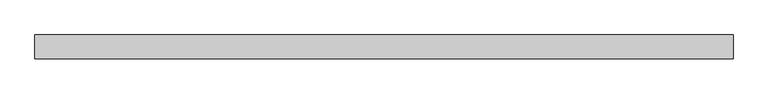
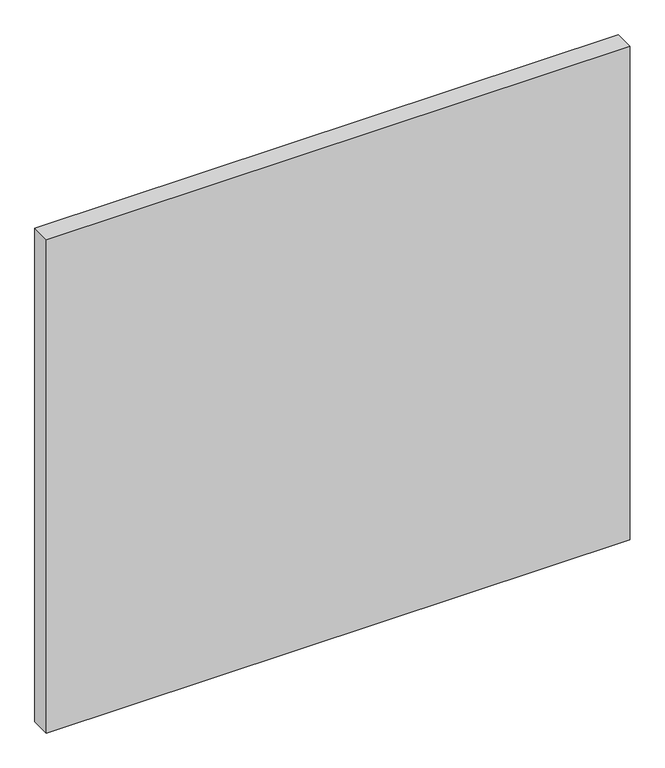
"""IFC4 building model written with IfcOpenShell, lengths in millimetres: plate geometry, Panneaux de murs-rideaux - Panneau système - Vitré."""

from ifc_helpers import new_model, si_unit, origin, origin_with_axes, place, context, project, spatial, polyline, outline, extrude, source, transform, mapped, element, save


def plate_de56a2f1(model_context):
    return source(origin(), model_context, "Body", "SweptSolid", [
        extrude(outline(polyline([(1175.0, 0.0), (0.0, 0.0), (0.0, 40.0), (1175.0, 40.0), (1175.0, 0.0)])), origin_with_axes(), (0.0, 0.0, 1.0), 1050.0),
    ])


if __name__ == "__main__":
    model = new_model("IFC4")
    model_context = context("Model", 3, world=origin())
    ifc_project = project(units=[si_unit("LENGTHUNIT", "METRE", prefix="MILLI")], contexts=[model_context])
    site = spatial("IfcSite", under=ifc_project)
    building = spatial("IfcBuilding", under=site)
    placement = place(None, origin())
    plate_shape = plate_de56a2f1(model_context)
    element("IfcPlate", 1, ObjectType="Panneaux de murs-rideaux - Panneau système - Vitré", at=placement, inside=building, context=model_context, shape_type="MappedRepresentation", body=[
        mapped(plate_shape, transform((0.0, 0.0, 0.0), x_axis=(1.0, 0.0, 0.0), y_axis=(0.0, 1.0, 0.0), z_axis=(0.0, 0.0, 1.0))),
    ])
    save(model, "model.ifc")
